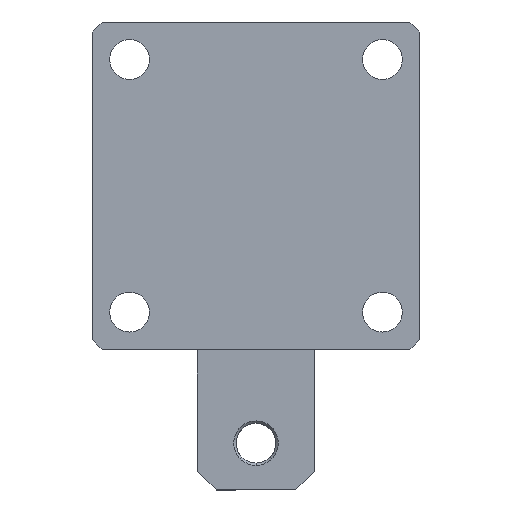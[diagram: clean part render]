
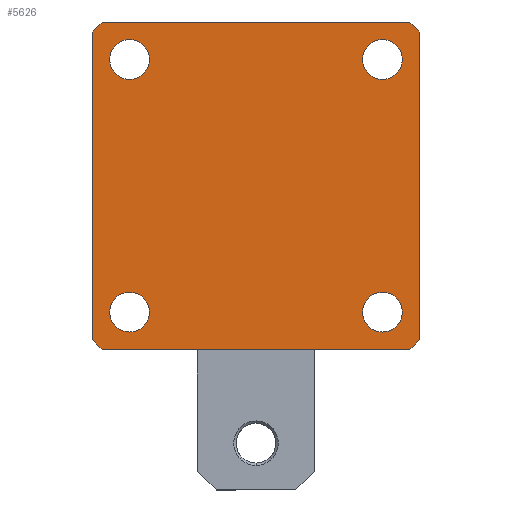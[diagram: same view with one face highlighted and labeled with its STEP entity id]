
A CAD part, front view. The second image highlights one B-rep face of the part: STEP entity #5626.
In plain terms, the highlighted planar face has unit normal (0, -1, 0).
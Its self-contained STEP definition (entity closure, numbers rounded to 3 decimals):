
#21 = DIRECTION ( 'NONE',  ( 0., 0., 1. ) ) ;
#29 = CIRCLE ( 'NONE', #4837, 4.25 ) ;
#39 = ORIENTED_EDGE ( 'NONE', *, *, #87, .F. ) ;
#52 = ORIENTED_EDGE ( 'NONE', *, *, #2813, .T. ) ;
#87 = EDGE_CURVE ( 'NONE', #3939, #4476, #4952, .T. ) ;
#96 = CARTESIAN_POINT ( 'NONE',  ( -35., 0., -32.848 ) ) ;
#225 = EDGE_CURVE ( 'NONE', #4288, #833, #3092, .T. ) ;
#245 = CARTESIAN_POINT ( 'NONE',  ( 32.848, 0., -35. ) ) ;
#266 = VERTEX_POINT ( 'NONE', #5621 ) ;
#269 = EDGE_CURVE ( 'NONE', #3939, #5171, #1641, .T. ) ;
#298 = DIRECTION ( 'NONE',  ( 0., -1., 0. ) ) ;
#310 = VECTOR ( 'NONE', #1850, 1000. ) ;
#324 = EDGE_CURVE ( 'NONE', #5721, #1383, #2960, .T. ) ;
#372 = CIRCLE ( 'NONE', #5211, 48. ) ;
#434 = EDGE_CURVE ( 'NONE', #4100, #1945, #3845, .T. ) ;
#451 = EDGE_CURVE ( 'NONE', #2142, #5171, #2671, .T. ) ;
#490 = EDGE_CURVE ( 'NONE', #4288, #4476, #1508, .T. ) ;
#513 = DIRECTION ( 'NONE',  ( 0., 1., 0. ) ) ;
#529 = CARTESIAN_POINT ( 'NONE',  ( -35., 0., 35. ) ) ;
#556 = EDGE_CURVE ( 'NONE', #5415, #1190, #29, .T. ) ;
#562 = FACE_BOUND ( 'NONE', #4753, .T. ) ;
#572 = CARTESIAN_POINT ( 'NONE',  ( 27., 0., -27. ) ) ;
#604 = AXIS2_PLACEMENT_3D ( 'NONE', #1352, #2679, #21 ) ;
#630 = EDGE_LOOP ( 'NONE', ( #1335, #4570, #39, #3538, #3104, #5106, #3265, #1649 ) ) ;
#658 = EDGE_CURVE ( 'NONE', #2142, #2130, #4331, .T. ) ;
#670 = EDGE_CURVE ( 'NONE', #2920, #2764, #3157, .T. ) ;
#674 = DIRECTION ( 'NONE',  ( 0., -1., 0. ) ) ;
#717 = CIRCLE ( 'NONE', #4664, 4.25 ) ;
#748 = DIRECTION ( 'NONE',  ( 0., 0., 1. ) ) ;
#831 = DIRECTION ( 'NONE',  ( 0., 1., 0. ) ) ;
#833 = VERTEX_POINT ( 'NONE', #3027 ) ;
#884 = CARTESIAN_POINT ( 'NONE',  ( 35., 0., 35. ) ) ;
#1019 = DIRECTION ( 'NONE',  ( 0., 0., 1. ) ) ;
#1021 = CARTESIAN_POINT ( 'NONE',  ( -27., 0., 22.75 ) ) ;
#1026 = CARTESIAN_POINT ( 'NONE',  ( 0., 0., 0. ) ) ;
#1040 = AXIS2_PLACEMENT_3D ( 'NONE', #572, #3663, #1019 ) ;
#1124 = AXIS2_PLACEMENT_3D ( 'NONE', #2118, #5222, #2577 ) ;
#1141 = EDGE_CURVE ( 'NONE', #266, #2130, #1209, .T. ) ;
#1190 = VERTEX_POINT ( 'NONE', #3124 ) ;
#1195 = CARTESIAN_POINT ( 'NONE',  ( 0., 0., 0. ) ) ;
#1209 = LINE ( 'NONE', #884, #1632 ) ;
#1322 = EDGE_CURVE ( 'NONE', #833, #266, #372, .T. ) ;
#1327 = EDGE_LOOP ( 'NONE', ( #52, #4749 ) ) ;
#1335 = ORIENTED_EDGE ( 'NONE', *, *, #225, .F. ) ;
#1352 = CARTESIAN_POINT ( 'NONE',  ( 0., 0., 0. ) ) ;
#1383 = VERTEX_POINT ( 'NONE', #1021 ) ;
#1390 = CARTESIAN_POINT ( 'NONE',  ( 27., 0., -27. ) ) ;
#1441 = VECTOR ( 'NONE', #3637, 1000. ) ;
#1450 = CARTESIAN_POINT ( 'NONE',  ( 0., 0., 0. ) ) ;
#1487 = AXIS2_PLACEMENT_3D ( 'NONE', #3320, #674, #3767 ) ;
#1508 = CIRCLE ( 'NONE', #3364, 48. ) ;
#1538 = ORIENTED_EDGE ( 'NONE', *, *, #556, .T. ) ;
#1559 = DIRECTION ( 'NONE',  ( 0., 1., 0. ) ) ;
#1570 = CARTESIAN_POINT ( 'NONE',  ( -27., 0., -27. ) ) ;
#1632 = VECTOR ( 'NONE', #3978, 1000. ) ;
#1634 = ORIENTED_EDGE ( 'NONE', *, *, #5078, .T. ) ;
#1641 = CIRCLE ( 'NONE', #4068, 48. ) ;
#1649 = ORIENTED_EDGE ( 'NONE', *, *, #1322, .F. ) ;
#1718 = CARTESIAN_POINT ( 'NONE',  ( -27., 0., 27. ) ) ;
#1741 = FACE_BOUND ( 'NONE', #2210, .T. ) ;
#1832 = CIRCLE ( 'NONE', #1040, 4.25 ) ;
#1850 = DIRECTION ( 'NONE',  ( -1., 0., 0. ) ) ;
#1892 = DIRECTION ( 'NONE',  ( 0., 0., 1. ) ) ;
#1907 = CARTESIAN_POINT ( 'NONE',  ( 27., 0., -22.75 ) ) ;
#1945 = VERTEX_POINT ( 'NONE', #4949 ) ;
#1965 = CARTESIAN_POINT ( 'NONE',  ( 27., 0., 31.25 ) ) ;
#1971 = EDGE_CURVE ( 'NONE', #1190, #5415, #1832, .T. ) ;
#2005 = DIRECTION ( 'NONE',  ( 0., 0., 1. ) ) ;
#2061 = AXIS2_PLACEMENT_3D ( 'NONE', #1570, #4652, #2005 ) ;
#2118 = CARTESIAN_POINT ( 'NONE',  ( -27., 0., -27. ) ) ;
#2130 = VERTEX_POINT ( 'NONE', #4228 ) ;
#2142 = VERTEX_POINT ( 'NONE', #245 ) ;
#2177 = DIRECTION ( 'NONE',  ( 1., 0., 0. ) ) ;
#2210 = EDGE_LOOP ( 'NONE', ( #3727, #1538 ) ) ;
#2314 = CARTESIAN_POINT ( 'NONE',  ( -27., 0., 31.25 ) ) ;
#2502 = CARTESIAN_POINT ( 'NONE',  ( -32.848, 0., 35. ) ) ;
#2577 = DIRECTION ( 'NONE',  ( 0., 0., 1. ) ) ;
#2671 = LINE ( 'NONE', #4495, #310 ) ;
#2679 = DIRECTION ( 'NONE',  ( 0., 1., 0. ) ) ;
#2764 = VERTEX_POINT ( 'NONE', #5495 ) ;
#2777 = AXIS2_PLACEMENT_3D ( 'NONE', #4935, #4977, #5700 ) ;
#2813 = EDGE_CURVE ( 'NONE', #1383, #5721, #717, .T. ) ;
#2851 = ORIENTED_EDGE ( 'NONE', *, *, #5287, .T. ) ;
#2864 = CIRCLE ( 'NONE', #5565, 4.25 ) ;
#2905 = DIRECTION ( 'NONE',  ( 0., 0., 1. ) ) ;
#2920 = VERTEX_POINT ( 'NONE', #3380 ) ;
#2960 = CIRCLE ( 'NONE', #5244, 4.25 ) ;
#3027 = CARTESIAN_POINT ( 'NONE',  ( 32.848, 0., 35. ) ) ;
#3091 = PLANE ( 'NONE',  #604 ) ;
#3092 = LINE ( 'NONE', #3521, #4139 ) ;
#3104 = ORIENTED_EDGE ( 'NONE', *, *, #451, .F. ) ;
#3124 = CARTESIAN_POINT ( 'NONE',  ( 27., 0., -31.25 ) ) ;
#3157 = CIRCLE ( 'NONE', #2061, 4.25 ) ;
#3171 = CARTESIAN_POINT ( 'NONE',  ( 27., 0., 27. ) ) ;
#3265 = ORIENTED_EDGE ( 'NONE', *, *, #1141, .F. ) ;
#3320 = CARTESIAN_POINT ( 'NONE',  ( 0., 0., 0. ) ) ;
#3364 = AXIS2_PLACEMENT_3D ( 'NONE', #1026, #5112, #2905 ) ;
#3380 = CARTESIAN_POINT ( 'NONE',  ( -27., 0., -22.75 ) ) ;
#3521 = CARTESIAN_POINT ( 'NONE',  ( 35., 0., 35. ) ) ;
#3538 = ORIENTED_EDGE ( 'NONE', *, *, #269, .T. ) ;
#3542 = CIRCLE ( 'NONE', #1124, 4.25 ) ;
#3619 = DIRECTION ( 'NONE',  ( 0., 0., 1. ) ) ;
#3637 = DIRECTION ( 'NONE',  ( 0., 0., 1. ) ) ;
#3663 = DIRECTION ( 'NONE',  ( 0., 1., 0. ) ) ;
#3727 = ORIENTED_EDGE ( 'NONE', *, *, #1971, .T. ) ;
#3767 = DIRECTION ( 'NONE',  ( 0., 0., 1. ) ) ;
#3845 = CIRCLE ( 'NONE', #2777, 4.25 ) ;
#3939 = VERTEX_POINT ( 'NONE', #96 ) ;
#3954 = FACE_OUTER_BOUND ( 'NONE', #630, .T. ) ;
#3978 = DIRECTION ( 'NONE',  ( 0., 0., -1. ) ) ;
#4068 = AXIS2_PLACEMENT_3D ( 'NONE', #1195, #298, #748 ) ;
#4100 = VERTEX_POINT ( 'NONE', #1965 ) ;
#4139 = VECTOR ( 'NONE', #2177, 1000. ) ;
#4164 = EDGE_LOOP ( 'NONE', ( #2851, #4619 ) ) ;
#4204 = CARTESIAN_POINT ( 'NONE',  ( -27., 0., 27. ) ) ;
#4228 = CARTESIAN_POINT ( 'NONE',  ( 35., 0., -32.848 ) ) ;
#4239 = FACE_BOUND ( 'NONE', #4164, .T. ) ;
#4288 = VERTEX_POINT ( 'NONE', #2502 ) ;
#4298 = ORIENTED_EDGE ( 'NONE', *, *, #670, .T. ) ;
#4331 = CIRCLE ( 'NONE', #1487, 48. ) ;
#4473 = DIRECTION ( 'NONE',  ( 0., 1., 0. ) ) ;
#4476 = VERTEX_POINT ( 'NONE', #4482 ) ;
#4482 = CARTESIAN_POINT ( 'NONE',  ( -35., 0., 32.848 ) ) ;
#4495 = CARTESIAN_POINT ( 'NONE',  ( 35., 0., -35. ) ) ;
#4538 = DIRECTION ( 'NONE',  ( 0., 1., 0. ) ) ;
#4570 = ORIENTED_EDGE ( 'NONE', *, *, #490, .T. ) ;
#4619 = ORIENTED_EDGE ( 'NONE', *, *, #434, .T. ) ;
#4637 = DIRECTION ( 'NONE',  ( 0., 0., 1. ) ) ;
#4652 = DIRECTION ( 'NONE',  ( 0., 1., 0. ) ) ;
#4664 = AXIS2_PLACEMENT_3D ( 'NONE', #4204, #1559, #4637 ) ;
#4706 = DIRECTION ( 'NONE',  ( 0., 0., 1. ) ) ;
#4749 = ORIENTED_EDGE ( 'NONE', *, *, #324, .T. ) ;
#4753 = EDGE_LOOP ( 'NONE', ( #1634, #4298 ) ) ;
#4837 = AXIS2_PLACEMENT_3D ( 'NONE', #1390, #4473, #5359 ) ;
#4935 = CARTESIAN_POINT ( 'NONE',  ( 27., 0., 27. ) ) ;
#4949 = CARTESIAN_POINT ( 'NONE',  ( 27., 0., 22.75 ) ) ;
#4952 = LINE ( 'NONE', #529, #1441 ) ;
#4977 = DIRECTION ( 'NONE',  ( 0., 1., 0. ) ) ;
#5078 = EDGE_CURVE ( 'NONE', #2764, #2920, #3542, .T. ) ;
#5106 = ORIENTED_EDGE ( 'NONE', *, *, #658, .T. ) ;
#5112 = DIRECTION ( 'NONE',  ( 0., -1., 0. ) ) ;
#5123 = FACE_BOUND ( 'NONE', #1327, .T. ) ;
#5171 = VERTEX_POINT ( 'NONE', #5720 ) ;
#5211 = AXIS2_PLACEMENT_3D ( 'NONE', #1450, #4538, #1892 ) ;
#5222 = DIRECTION ( 'NONE',  ( 0., 1., 0. ) ) ;
#5244 = AXIS2_PLACEMENT_3D ( 'NONE', #1718, #831, #4706 ) ;
#5287 = EDGE_CURVE ( 'NONE', #1945, #4100, #2864, .T. ) ;
#5359 = DIRECTION ( 'NONE',  ( 0., 0., 1. ) ) ;
#5415 = VERTEX_POINT ( 'NONE', #1907 ) ;
#5495 = CARTESIAN_POINT ( 'NONE',  ( -27., 0., -31.25 ) ) ;
#5565 = AXIS2_PLACEMENT_3D ( 'NONE', #3171, #513, #3619 ) ;
#5621 = CARTESIAN_POINT ( 'NONE',  ( 35., 0., 32.848 ) ) ;
#5626 = ADVANCED_FACE ( 'NONE', ( #562, #1741, #4239, #5123, #3954 ), #3091, .F. ) ;
#5700 = DIRECTION ( 'NONE',  ( 0., 0., 1. ) ) ;
#5720 = CARTESIAN_POINT ( 'NONE',  ( -32.848, 0., -35. ) ) ;
#5721 = VERTEX_POINT ( 'NONE', #2314 ) ;
